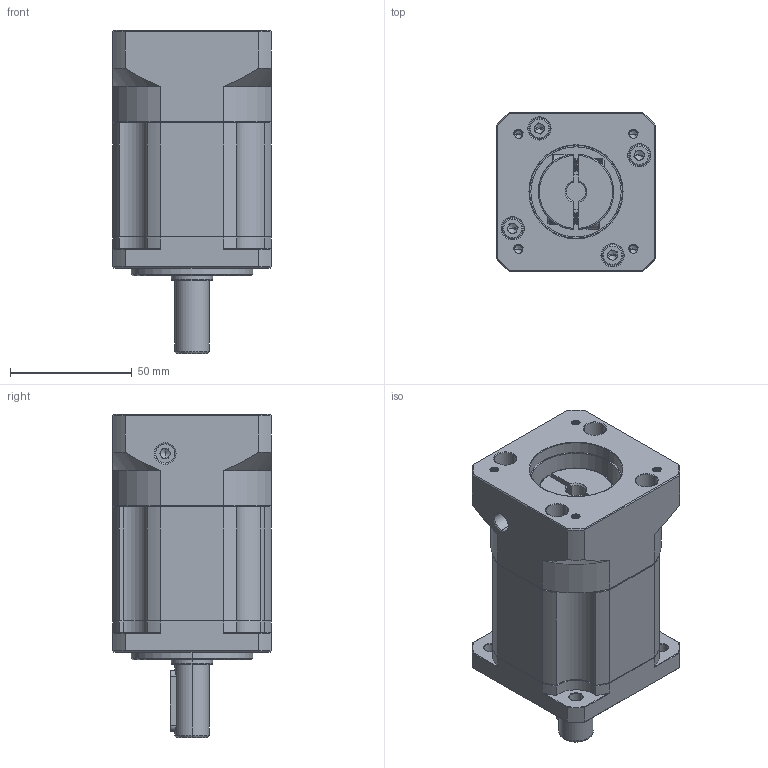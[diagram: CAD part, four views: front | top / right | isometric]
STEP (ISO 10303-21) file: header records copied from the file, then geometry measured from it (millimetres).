
FILE_DESCRIPTION (( 'STEP AP214' ), '1' );
FILE_NAME ('ZB060-D14-L2-P2-8-38.1-47.14X47.14-M4.step', '2023-08-16T07:02:16', ( '' ), ( '' ), 'SwSTEP 2.0', 'SolidWorks 2016', '' );
FILE_SCHEMA (( 'AUTOMOTIVE_DESIGN' ));
Length unit declared in the file: millimetre
Products named in the file (1): ZB060-D14-L2-P2-8-38.1-47.14X47.14-M4
Bounding box: 65 x 65 x 132.5 mm (x, y, z)
Volume: 334529.4 mm3; surface area: 58287.7 mm2
Topology: 6 solids, 6 shells, 2154 faces, 5800 edges, 3734 vertices
Faces by surface type: plane 1059, bspline 397, cylinder 381, cone 281, torus 36
Entity records: 114774 total; most frequent: CARTESIAN_POINT 40157, ORIENTED_EDGE 11540, DIRECTION 9092, EDGE_CURVE 5770, VERTEX_POINT 3734, LINE 3634, VECTOR 3634, AXIS2_PLACEMENT_3D 2729
